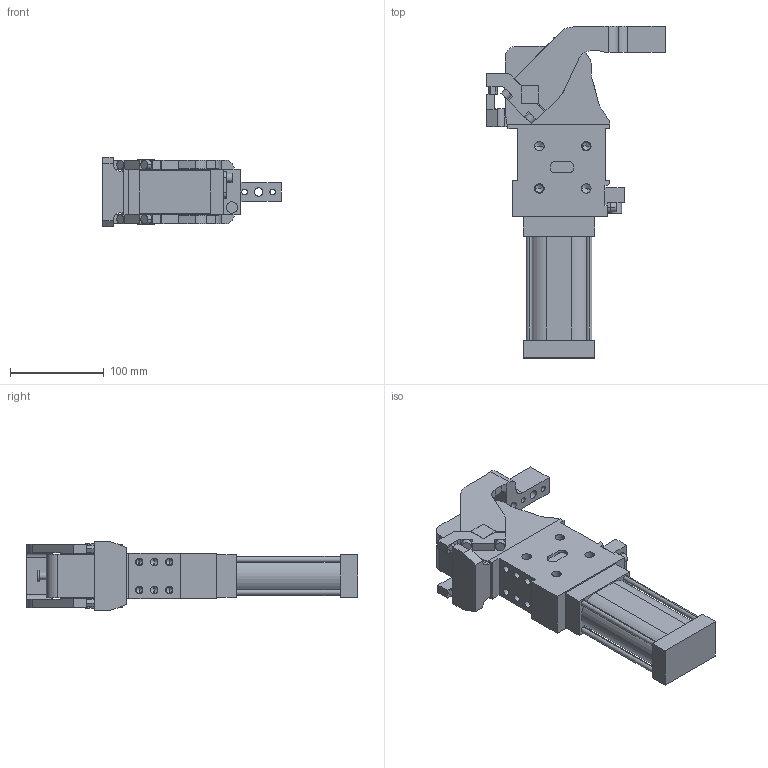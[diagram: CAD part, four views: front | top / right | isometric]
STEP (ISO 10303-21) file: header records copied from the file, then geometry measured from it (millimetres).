
FILE_DESCRIPTION (( 'STEP AP214' ), '1' );
FILE_NAME ('cpl50tv3csi1g_26.STEP', '2023-01-26T10:00:06', ( '' ), ( '' ), 'SwSTEP 2.0', 'SolidWorks 2022', '' );
FILE_SCHEMA (( 'AUTOMOTIVE_DESIGN' ));
Length unit declared in the file: millimetre
Products named in the file (4): leva_v3cs_cpl50t; cpl50tv3csi1g_26; blocchetto_VEP_0; meccanica_cpl_50_tassello_esterno
Assembly tree (3 placements, depth 2):
  cpl50tv3csi1g_26
    meccanica_cpl_50_tassello_esterno
    blocchetto_VEP_0
    leva_v3cs_cpl50t
Bounding box: 190 x 353.5 x 74 mm (x, y, z)
Volume: 1430940 mm3; surface area: 175168 mm2
Topology: 3 solids, 3 shells, 438 faces, 1140 edges, 713 vertices
Faces by surface type: plane 226, cylinder 162, cone 50
Entity records: 14666 total; most frequent: CARTESIAN_POINT 2327, DIRECTION 2316, ORIENTED_EDGE 2188, EDGE_CURVE 1094, AXIS2_PLACEMENT_3D 784, LINE 748, VECTOR 748, VERTEX_POINT 713
